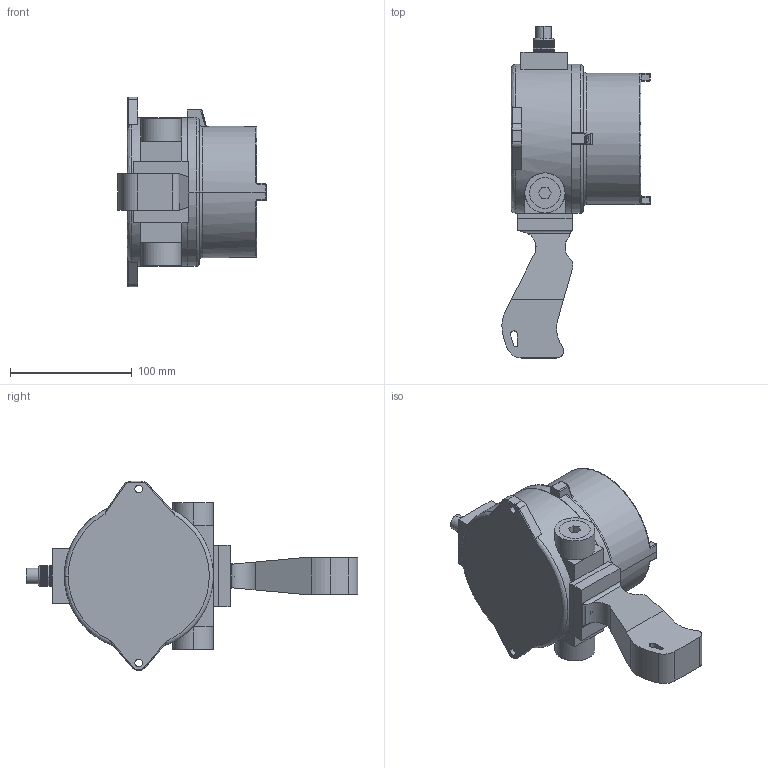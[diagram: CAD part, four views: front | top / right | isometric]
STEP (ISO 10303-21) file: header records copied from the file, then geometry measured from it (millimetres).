
FILE_DESCRIPTION (( 'STEP AP214' ), '1' );
FILE_NAME ('EXPCMR-ATCM-12MP78-RC.STEP', '2018-04-16T16:18:14', ( '' ), ( '' ), 'SwSTEP 2.0', 'SolidWorks 2016', '' );
FILE_SCHEMA (( 'AUTOMOTIVE_DESIGN' ));
Length unit declared in the file: inch
Products named in the file (4): XMOB-2; FHandle; HKB-GL; EXPCMR-ATCM-12MP78-RC
Assembly tree (3 placements, depth 2):
  EXPCMR-ATCM-12MP78-RC
    HKB-GL
    FHandle
    XMOB-2
Bounding box: 121.73 x 272.58 x 155.57 mm (x, y, z)
Volume: 620567.1 mm3; surface area: 199749 mm2
Topology: 9 solids, 9 shells, 1316 faces, 3192 edges, 1896 vertices
Faces by surface type: cylinder 790, plane 427, bspline 78, cone 10, sphere 9, torus 2
Entity records: 58437 total; most frequent: CARTESIAN_POINT 13761, DIRECTION 7187, ORIENTED_EDGE 6338, EDGE_CURVE 3169, AXIS2_PLACEMENT_3D 3018, VERTEX_POINT 1894, CIRCLE 1774, EDGE_LOOP 1359
